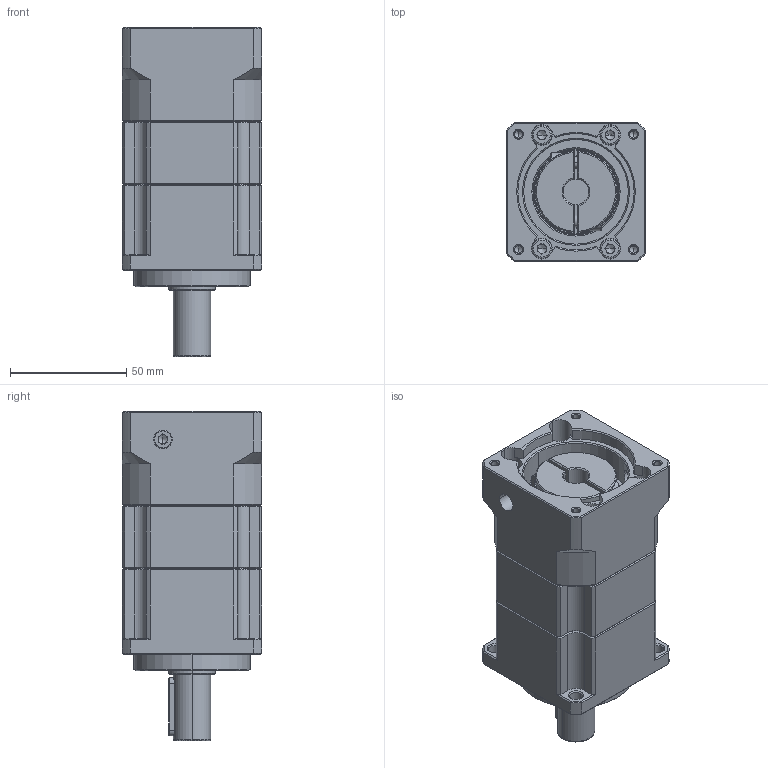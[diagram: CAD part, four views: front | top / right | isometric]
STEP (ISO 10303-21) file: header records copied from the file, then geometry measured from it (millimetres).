
FILE_DESCRIPTION (( 'STEP AP214' ), '1' );
FILE_NAME ('ZPB060-D16-L2-P1-11-50-70-M4.step', '2024-04-23T15:41:25', ( 'Windows 蚚誧' ), ( 'Organization' ), 'SwSTEP 2.0', 'SolidWorks 2016', '' );
FILE_SCHEMA (( 'AUTOMOTIVE_DESIGN' ));
Length unit declared in the file: millimetre
Products named in the file (1): ZPB060-D16-L2-P1-11-50-70-M4
Bounding box: 60 x 60 x 141.5 mm (x, y, z)
Volume: 320815 mm3; surface area: 74956 mm2
Topology: 14 solids, 22 shells, 2005 faces, 5619 edges, 3630 vertices
Faces by surface type: plane 1051, bspline 373, cylinder 271, cone 172, torus 92, sphere 46
Entity records: 105293 total; most frequent: CARTESIAN_POINT 35113, ORIENTED_EDGE 10932, DIRECTION 8390, EDGE_CURVE 5466, VERTEX_POINT 3561, LINE 3314, VECTOR 3314, AXIS2_PLACEMENT_3D 2538
